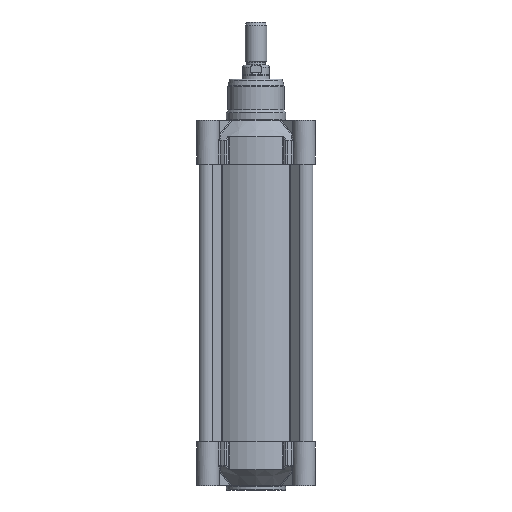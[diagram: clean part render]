
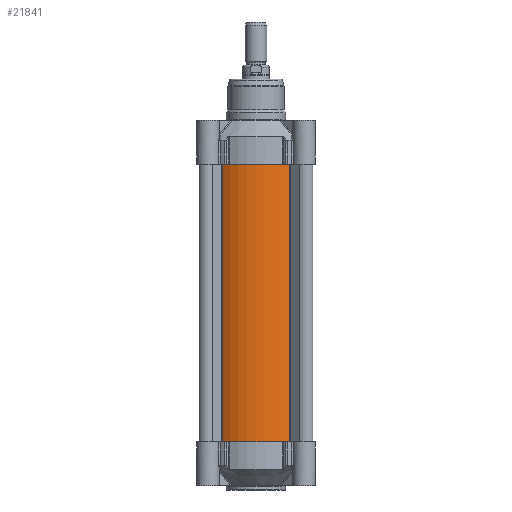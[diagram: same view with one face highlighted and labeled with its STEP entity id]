
A CAD part, left-side view. The second image highlights one B-rep face of the part: STEP entity #21841.
In plain terms, the highlighted cylindrical face has radius 52.7 mm (diameter 105.4 mm), a partial arc.
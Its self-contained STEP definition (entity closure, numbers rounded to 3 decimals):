
#1972=LINE('',#43617,#3030);
#1973=LINE('',#43621,#3031);
#3030=VECTOR('',#29906,10.);
#3031=VECTOR('',#29911,10.);
#4020=CYLINDRICAL_SURFACE('',#24279,52.7);
#5708=FACE_OUTER_BOUND('',#7393,.T.);
#7393=EDGE_LOOP('',(#18817,#18818,#18819,#18820));
#8528=CIRCLE('',#24118,52.7);
#8585=CIRCLE('',#24280,52.7);
#10334=VERTEX_POINT('',#43193);
#10335=VERTEX_POINT('',#43195);
#10441=VERTEX_POINT('',#43615);
#10442=VERTEX_POINT('',#43619);
#13081=EDGE_CURVE('',#10334,#10335,#8528,.T.);
#13292=EDGE_CURVE('',#10334,#10441,#1972,.T.);
#13293=EDGE_CURVE('',#10442,#10441,#8585,.T.);
#13294=EDGE_CURVE('',#10335,#10442,#1973,.T.);
#18817=ORIENTED_EDGE('',*,*,#13292,.T.);
#18818=ORIENTED_EDGE('',*,*,#13293,.F.);
#18819=ORIENTED_EDGE('',*,*,#13294,.F.);
#18820=ORIENTED_EDGE('',*,*,#13081,.F.);
#21841=ADVANCED_FACE('',(#5708),#4020,.T.);
#24118=AXIS2_PLACEMENT_3D('',#43196,#29430,#29431);
#24279=AXIS2_PLACEMENT_3D('',#43618,#29907,#29908);
#24280=AXIS2_PLACEMENT_3D('',#43620,#29909,#29910);
#29430=DIRECTION('center_axis',(0.,0.,-1.));
#29431=DIRECTION('ref_axis',(-0.586,-0.81,0.));
#29906=DIRECTION('',(0.,0.,1.));
#29907=DIRECTION('center_axis',(0.,0.,1.));
#29908=DIRECTION('ref_axis',(-0.586,-0.81,0.));
#29909=DIRECTION('center_axis',(0.,0.,1.));
#29910=DIRECTION('ref_axis',(-0.586,-0.81,0.));
#29911=DIRECTION('',(0.,0.,1.));
#43193=CARTESIAN_POINT('',(30.896,-42.693,-128.5));
#43195=CARTESIAN_POINT('',(-30.896,-42.693,-128.5));
#43196=CARTESIAN_POINT('Origin',(0.,0.,
-128.5));
#43615=CARTESIAN_POINT('',(30.896,-42.693,128.5));
#43617=CARTESIAN_POINT('',(30.896,-42.693,0.));
#43618=CARTESIAN_POINT('Origin',(0.,0.,
0.));
#43619=CARTESIAN_POINT('',(-30.896,-42.693,128.5));
#43620=CARTESIAN_POINT('Origin',(0.,0.,
128.5));
#43621=CARTESIAN_POINT('',(-30.896,-42.693,0.));
